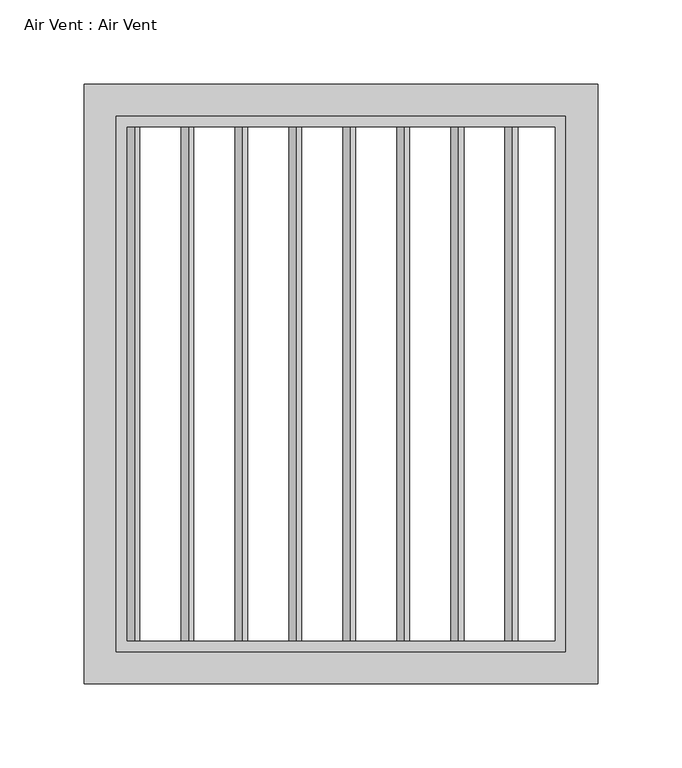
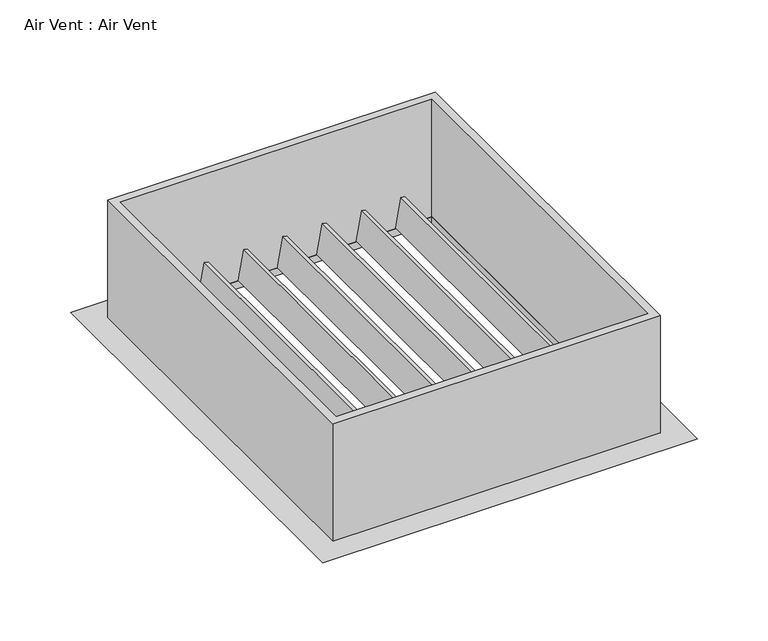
"""IFC4 building model written with IfcOpenShell, lengths in millimetres: proxy geometry, Air Vent : Air Vent."""

from ifc_helpers import new_model, si_unit, frame, origin, place, context, project, spatial, polyline, outline, extrude, faceted_brep, source, transform, mapped, element, save


def air_vent_air_vent_947aef1c(model_context):
    return source(origin(), model_context, "Body", "SolidModel", [
        extrude(outline(polyline([(0.0, -3.175), (0.0, 0.0), (304.8, 0.0), (304.8, -3.175), (0.0, -3.175)])), frame((-94.9418006, -152.4, 2438.951333), z_axis=(0.1736481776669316, 0.0, 0.9848077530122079), x_axis=(0.0, 1.0, 0.0)), (0.0, 0.0, 1.0), 25.4),
        extrude(outline(polyline([(0.0, -3.175), (0.0, 0.0), (304.8, 0.0), (304.8, -3.175), (0.0, -3.175)])), frame((-62.8836012, -152.4, 2438.951333), z_axis=(0.1736481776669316, 0.0, 0.9848077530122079), x_axis=(0.0, 1.0, 0.0)), (0.0, 0.0, 1.0), 25.4),
        extrude(outline(polyline([(0.0, -3.175), (0.0, 0.0), (304.8, 0.0), (304.8, -3.175), (0.0, -3.175)])), frame((-30.8254018, -152.4, 2438.951333), z_axis=(0.1736481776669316, 0.0, 0.9848077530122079), x_axis=(0.0, 1.0, 0.0)), (0.0, 0.0, 1.0), 25.4),
        extrude(outline(polyline([(0.0, -3.1750001), (0.0, 0.0), (304.8, 0.0), (304.8, -3.1750001), (0.0, -3.1750001)])), frame((1.2327975, -152.4, 2438.951333), z_axis=(0.1736481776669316, 0.0, 0.9848077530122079), x_axis=(0.0, 1.0, 0.0)), (0.0, 0.0, 1.0), 25.4),
        extrude(outline(polyline([(0.0, -3.175), (0.0, 0.0), (304.8, 0.0), (304.8, -3.175), (0.0, -3.175)])), frame((33.2909969, -152.4, 2438.951333), z_axis=(0.1736481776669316, 0.0, 0.9848077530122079), x_axis=(0.0, 1.0, 0.0)), (0.0, 0.0, 1.0), 25.4),
        extrude(outline(polyline([(0.0, -3.175), (0.0, 0.0), (304.8, 0.0), (304.8, -3.175), (0.0, -3.175)])), frame((65.3491963, -152.4, 2438.951333), z_axis=(0.1736481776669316, 0.0, 0.9848077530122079), x_axis=(0.0, 1.0, 0.0)), (0.0, 0.0, 1.0), 25.4),
        extrude(outline(polyline([(0.0, -3.175), (0.0, 0.0), (304.8, 0.0), (304.8, -3.175), (0.0, -3.175)])), frame((97.4073957, -152.4, 2438.951333), z_axis=(0.1736481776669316, 0.0, 0.9848077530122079), x_axis=(0.0, 1.0, 0.0)), (0.0, 0.0, 1.0), 25.4),
        extrude(outline(polyline([(0.0, -3.175), (0.0, 0.0), (304.8, 0.0), (304.8, -3.175), (0.0, -3.175)])), frame((-127.0, -152.4, 2438.951333), z_axis=(0.1736481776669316, 0.0, 0.9848077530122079), x_axis=(0.0, 1.0, 0.0)), (0.0, 0.0, 1.0), 25.4),
        faceted_brep([(127.0, 152.4, 2438.4), (127.0, 152.4, 2432.05), (127.0, -152.4, 2432.05), (127.0, -152.4, 2438.4), (-127.0, -152.4, 2432.05), (-127.0, -152.4, 2438.4), (-127.0, 152.4, 2432.05), (-127.0, 152.4, 2438.4), (139.7, -165.1, 2432.05), (-139.7, -165.1, 2432.05), (-139.7, 165.1, 2432.05), (139.7, 165.1, 2432.05), (152.4, 177.8, 2438.4), (-152.4, 177.8, 2438.4), (-152.4, -177.8, 2438.4), (152.4, -177.8, 2438.4)], [[[0, 1, 2, 3]], [[3, 2, 4, 5]], [[5, 4, 6, 7]], [[8, 9, 10, 11], [1, 6, 4, 2]], [[12, 13, 14, 15], [3, 5, 7, 0]], [[7, 6, 1, 0]], [[11, 12, 15, 8]], [[8, 15, 14, 9]], [[9, 14, 13, 10]], [[10, 13, 12, 11]]]),
        extrude(outline(polyline([(133.35, 158.75), (133.35, -158.75), (-133.35, -158.75), (-133.35, 158.75), (133.35, 158.75)]), holes=[polyline([(127.0, 152.4), (-127.0, 152.4), (-127.0, -152.4), (127.0, -152.4), (127.0, 152.4)])]), frame((0.0, 0.0, 2438.4), z_axis=(0.0, 0.0, 1.0), x_axis=(1.0, 0.0, 0.0)), (0.0, 0.0, 1.0), 101.6),
    ])


if __name__ == "__main__":
    model = new_model("IFC4")
    model_context = context("Model", 3, world=origin())
    ifc_project = project(units=[si_unit("LENGTHUNIT", "METRE", prefix="MILLI")], contexts=[model_context])
    site = spatial("IfcSite", under=ifc_project)
    building = spatial("IfcBuilding", under=site)
    placement = place(None, origin())
    air_vent_air_vent_shape = air_vent_air_vent_947aef1c(model_context)
    element("IfcBuildingElementProxy", 1, Name="Air Vent : Air Vent", ObjectType="Air Vent : Air Vent", at=placement, inside=building, context=model_context, shape_type="MappedRepresentation", body=[
        mapped(air_vent_air_vent_shape, transform((0.0, 0.0, 0.0), x_axis=(1.0, 0.0, 0.0), y_axis=(0.0, 1.0, 0.0), z_axis=(0.0, 0.0, 1.0))),
    ])
    save(model, "model.ifc")
